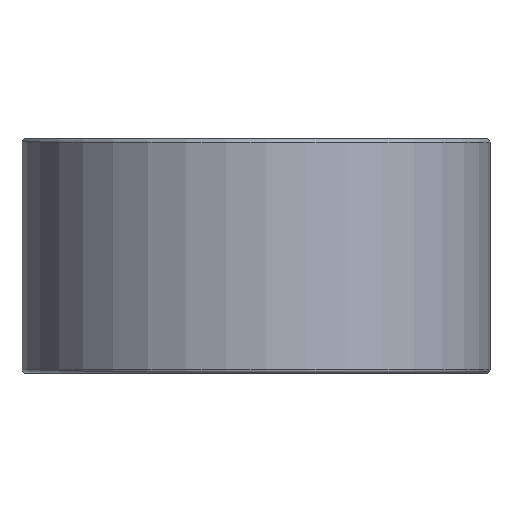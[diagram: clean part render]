
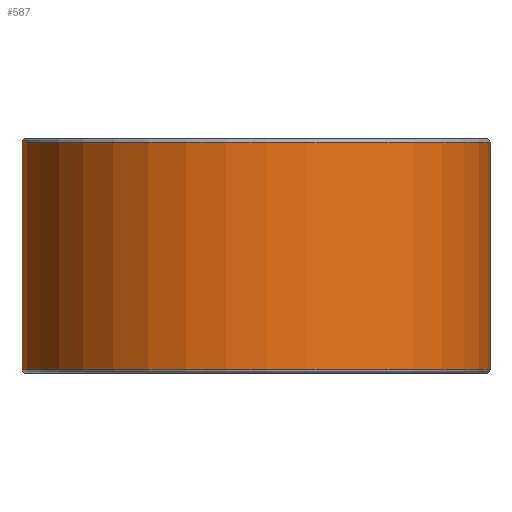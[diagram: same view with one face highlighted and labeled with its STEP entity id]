
A CAD part, front view. The second image highlights one B-rep face of the part: STEP entity #587.
In plain terms, the highlighted cylindrical face has radius 34 mm (diameter 68 mm), a full revolution.
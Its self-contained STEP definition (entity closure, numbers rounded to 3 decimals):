
#587=ADVANCED_FACE('',(#699,#700),#658,.T.);
#658=CYLINDRICAL_SURFACE('',#1517,34.);
#699=FACE_BOUND('',#776,.T.);
#700=FACE_BOUND('',#777,.T.);
#776=EDGE_LOOP('',(#911));
#777=EDGE_LOOP('',(#912));
#911=ORIENTED_EDGE('',*,*,#1297,.T.);
#912=ORIENTED_EDGE('',*,*,#1298,.T.);
#1185=VERTEX_POINT('',#2148);
#1186=VERTEX_POINT('',#2150);
#1297=EDGE_CURVE('',#1185,#1185,#1431,.T.);
#1298=EDGE_CURVE('',#1186,#1186,#1432,.T.);
#1431=CIRCLE('',#1515,34.);
#1432=CIRCLE('',#1516,34.);
#1515=AXIS2_PLACEMENT_3D('',#2147,#1705,#1706);
#1516=AXIS2_PLACEMENT_3D('',#2149,#1707,#1708);
#1517=AXIS2_PLACEMENT_3D('',#2151,#1709,#1710);
#1705=DIRECTION('',(0.,0.,-1.));
#1706=DIRECTION('',(1.,0.,0.));
#1707=DIRECTION('',(0.,0.,1.));
#1708=DIRECTION('',(1.,0.,0.));
#1709=DIRECTION('',(0.,0.,-1.));
#1710=DIRECTION('',(-1.,0.,0.));
#2147=CARTESIAN_POINT('',(0.,0.,33.5));
#2148=CARTESIAN_POINT('',(34.,0.,33.5));
#2149=CARTESIAN_POINT('',(0.,0.,0.5));
#2150=CARTESIAN_POINT('',(34.,0.,0.5));
#2151=CARTESIAN_POINT('',(0.,0.,34.));
